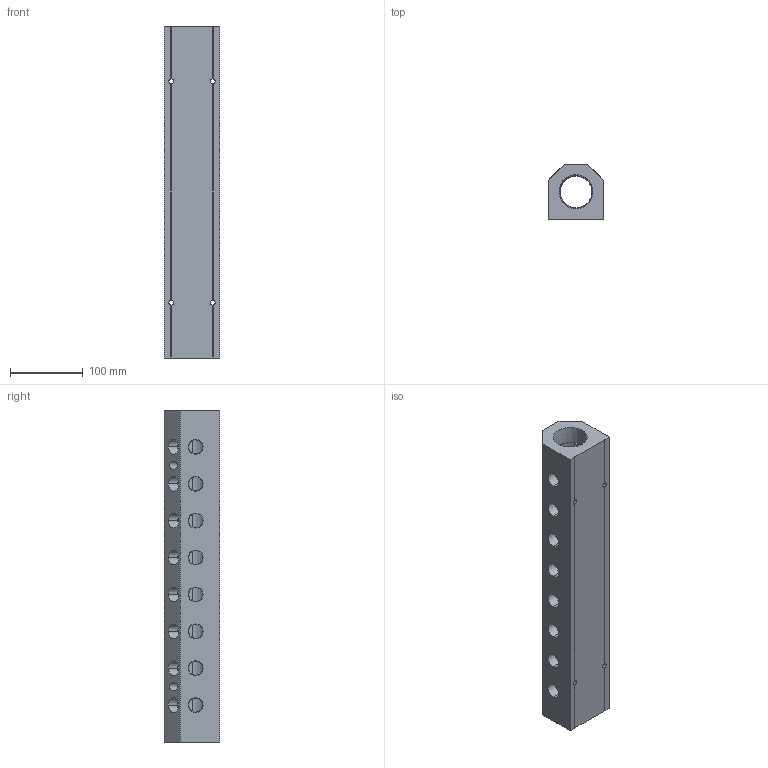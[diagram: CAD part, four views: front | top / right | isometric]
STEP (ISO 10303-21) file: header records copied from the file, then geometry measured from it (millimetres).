
FILE_DESCRIPTION (( 'STEP AP214' ), '1' );
FILE_NAME ('ALM8ABC-N8N24-457R.step', '2022-02-07T09:23:32', ( '' ), ( '' ), 'SwSTEP 2.0', 'SolidWorks 2020', '' );
FILE_SCHEMA (( 'AUTOMOTIVE_DESIGN' ));
Length unit declared in the file: millimetre
Products named in the file (1): ALM8ABC-N8N24-457R
Bounding box: 76.2 x 76.2 x 457 mm (x, y, z)
Volume: 1577281.7 mm3; surface area: 214889.1 mm2
Topology: 1 solids, 1 shells, 367 faces, 1048 edges, 696 vertices
Faces by surface type: plane 223, bspline 74, cone 52, cylinder 18
Entity records: 22121 total; most frequent: CARTESIAN_POINT 9626, ORIENTED_EDGE 2096, DIRECTION 1444, EDGE_CURVE 1048, VERTEX_POINT 696, LINE 688, VECTOR 688, EDGE_LOOP 438
